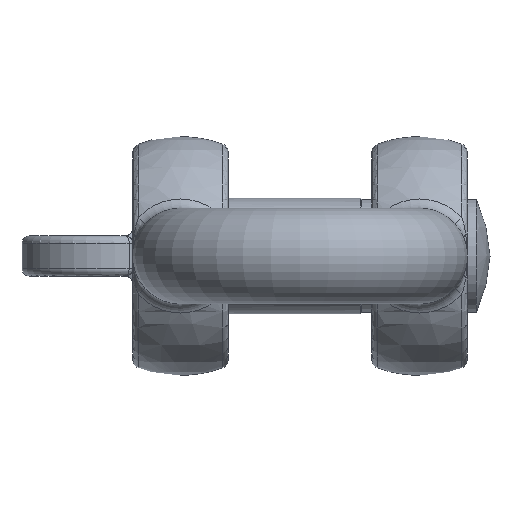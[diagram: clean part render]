
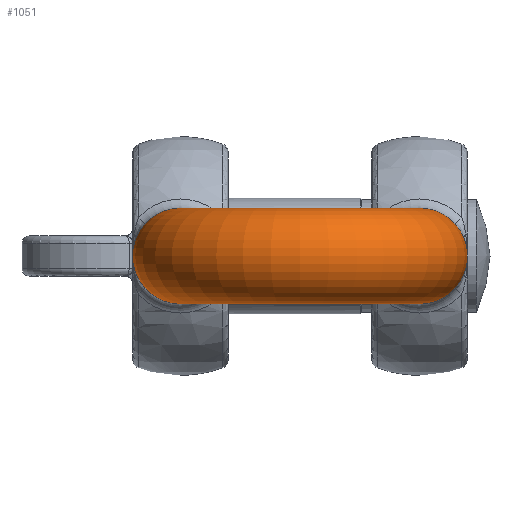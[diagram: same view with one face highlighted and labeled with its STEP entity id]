
A CAD part, front view. The second image highlights one B-rep face of the part: STEP entity #1051.
In plain terms, the highlighted toroidal (fillet/blend) face has major radius 47.5 mm and minor radius 19 mm.
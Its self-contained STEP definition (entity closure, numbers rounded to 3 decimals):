
#55=TOROIDAL_SURFACE('',#1208,47.5,19.);
#183=FACE_OUTER_BOUND('',#256,.T.);
#256=EDGE_LOOP('',(#862,#863,#864,#865,#866,#867));
#390=CIRCLE('',#1206,19.);
#391=CIRCLE('',#1207,19.);
#392=CIRCLE('',#1209,28.5);
#393=CIRCLE('',#1210,19.);
#394=CIRCLE('',#1211,19.);
#475=VERTEX_POINT('',#2563);
#476=VERTEX_POINT('',#2565);
#477=VERTEX_POINT('',#2569);
#478=VERTEX_POINT('',#2571);
#610=EDGE_CURVE('',#475,#476,#390,.T.);
#611=EDGE_CURVE('',#476,#475,#391,.T.);
#612=EDGE_CURVE('',#476,#477,#392,.T.);
#613=EDGE_CURVE('',#477,#478,#393,.T.);
#614=EDGE_CURVE('',#478,#477,#394,.T.);
#862=ORIENTED_EDGE('',*,*,#611,.F.);
#863=ORIENTED_EDGE('',*,*,#612,.T.);
#864=ORIENTED_EDGE('',*,*,#613,.T.);
#865=ORIENTED_EDGE('',*,*,#614,.T.);
#866=ORIENTED_EDGE('',*,*,#612,.F.);
#867=ORIENTED_EDGE('',*,*,#610,.F.);
#1051=ADVANCED_FACE('',(#183),#55,.T.);
#1206=AXIS2_PLACEMENT_3D('',#2566,#1411,#1412);
#1207=AXIS2_PLACEMENT_3D('',#2567,#1413,#1414);
#1208=AXIS2_PLACEMENT_3D('',#2568,#1415,#1416);
#1209=AXIS2_PLACEMENT_3D('',#2570,#1417,#1418);
#1210=AXIS2_PLACEMENT_3D('',#2572,#1419,#1420);
#1211=AXIS2_PLACEMENT_3D('',#2573,#1421,#1422);
#1411=DIRECTION('center_axis',(0.,1.,0.));
#1412=DIRECTION('ref_axis',(1.,0.,0.));
#1413=DIRECTION('center_axis',(0.,1.,0.));
#1414=DIRECTION('ref_axis',(1.,0.,0.));
#1415=DIRECTION('center_axis',(0.,0.,-1.));
#1416=DIRECTION('ref_axis',(-1.,0.,0.));
#1417=DIRECTION('center_axis',(0.,0.,1.));
#1418=DIRECTION('ref_axis',(-1.,0.,0.));
#1419=DIRECTION('center_axis',(0.,-1.,0.));
#1420=DIRECTION('ref_axis',(-1.,0.,0.));
#1421=DIRECTION('center_axis',(0.,-1.,0.));
#1422=DIRECTION('ref_axis',(-1.,0.,0.));
#2563=CARTESIAN_POINT('',(-66.5,66.5,0.));
#2565=CARTESIAN_POINT('',(-28.5,66.5,0.));
#2566=CARTESIAN_POINT('Origin',(-47.5,66.5,0.));
#2567=CARTESIAN_POINT('Origin',(-47.5,66.5,0.));
#2568=CARTESIAN_POINT('Origin',(0.,66.5,0.));
#2569=CARTESIAN_POINT('',(28.5,66.5,0.));
#2570=CARTESIAN_POINT('Origin',(0.,66.5,0.));
#2571=CARTESIAN_POINT('',(66.5,66.5,0.));
#2572=CARTESIAN_POINT('Origin',(47.5,66.5,0.));
#2573=CARTESIAN_POINT('Origin',(47.5,66.5,0.));
